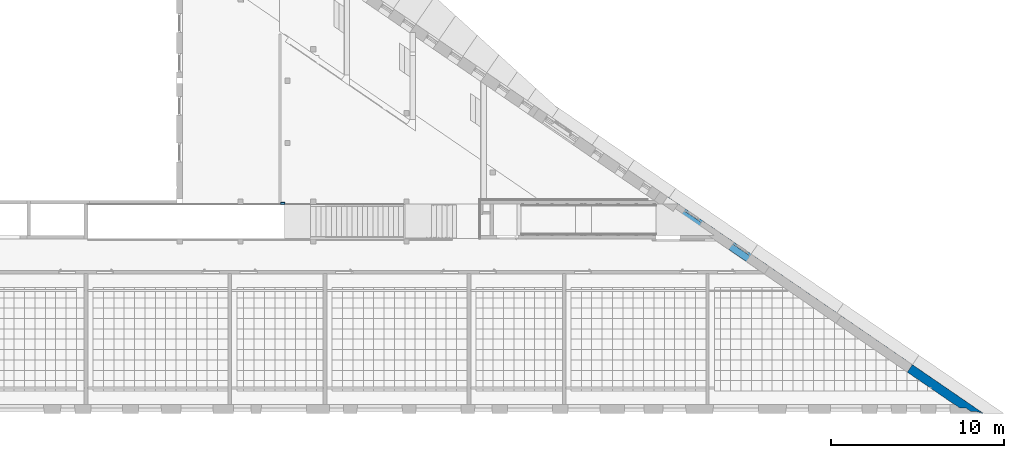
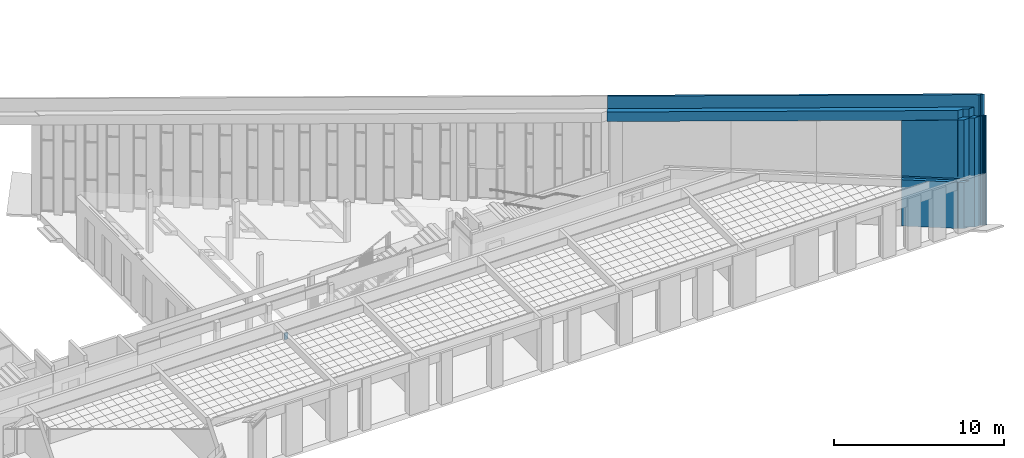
# One storey, part 46 of 79: 3 walls.
"""IFC2X3 building model written with IfcOpenShell, lengths in millimetres."""

from ifc_helpers import new_model, entity, si_unit, converted_unit, derived_unit, money_unit, direction, frame, origin_with_axes, place, context, subcontext, project, spatial, faceted_brep, material, material_list, type_object, element, save


model = new_model("IFC2X3")

# Units and contexts
model_context = context("Model", 3, precision=0.01, world=origin_with_axes(), true_north=direction((0.0, 1.0)))
body_context = subcontext(model_context, "Body", "Model", "MODEL_VIEW")
ifc_project = project(units=[si_unit("LENGTHUNIT", "METRE", prefix="MILLI"), si_unit("AREAUNIT", "SQUARE_METRE"), si_unit("VOLUMEUNIT", "CUBIC_METRE"), converted_unit("PLANEANGLEUNIT", "DEGREE", entity("IfcPlaneAngleMeasure", 0.0174532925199), si_unit("PLANEANGLEUNIT", "RADIAN"), dimensions=[0, 0, 0, 0, 0, 0, 0]), si_unit("SOLIDANGLEUNIT", "STERADIAN"), money_unit("EUR"), converted_unit("TIMEUNIT", "Year", entity("IfcTimeMeasure", 31556926.0), si_unit("TIMEUNIT", "SECOND"), dimensions=[0, 0, 1, 0, 0, 0, 0]), si_unit("MASSUNIT", "GRAM", prefix="KILO"), si_unit("THERMODYNAMICTEMPERATUREUNIT", "DEGREE_CELSIUS"), si_unit("LUMINOUSINTENSITYUNIT", "LUMEN"), si_unit("ENERGYUNIT", "JOULE", prefix="MEGA"), derived_unit("THERMALCONDUCTANCEUNIT", [(si_unit("POWERUNIT", "WATT"), 1), (si_unit("LENGTHUNIT", "METRE"), -1), (si_unit("THERMODYNAMICTEMPERATUREUNIT", "KELVIN"), -1)]), derived_unit("SPECIFICHEATCAPACITYUNIT", [(si_unit("ENERGYUNIT", "JOULE"), 1), (si_unit("MASSUNIT", "GRAM", prefix="KILO"), -1), (si_unit("THERMODYNAMICTEMPERATUREUNIT", "KELVIN"), -1)]), derived_unit("MASSDENSITYUNIT", [(si_unit("MASSUNIT", "GRAM", prefix="KILO"), 1), (si_unit("VOLUMEUNIT", "CUBIC_METRE"), -1)])], contexts=[model_context])

# Site, building, storey
site_placement = place(None, origin_with_axes())
site = spatial("IfcSite", under=ifc_project, at=site_placement, Name="L.Koidula tn 11b", CompositionType="ELEMENT")
building_placement = place(site_placement, origin_with_axes())
building = spatial("IfcBuilding", under=site, at=building_placement, Name="Rakvere Riigigümnaasium", CompositionType="ELEMENT")
storey_placement = place(building_placement, frame((0.0, 0.0, 3720.0), z_axis=(0.0, 0.0, 1.0), x_axis=(1.0, 0.0, 0.0)))
storey = spatial("IfcBuildingStorey", under=building, at=storey_placement, Name="2.korrus +3,72", CompositionType="ELEMENT", Elevation=3720.0)

# Walls
ifc_material_1 = material(Name="Krohv")
ifc_material_2 = material(Name="Betoon-element")
ifc_material_3 = material(Name="FF-PIR soojustus")
ifc_material_4 = material(Name="Tuuletõke (RKL Facade)")
ifc_material_5 = material(Name="Salto-roovitus")
ifc_material_6 = material(Name="Puit-fassaad")
ifc_material_list_1 = material_list([ifc_material_1, ifc_material_2, ifc_material_3, ifc_material_4, ifc_material_5, ifc_material_5, ifc_material_6])
wall_type_1 = type_object("IfcWallType", Name="VS-01-1 524", PredefinedType="NOTDEFINED")
wall_1_placement = place(storey_placement, frame((102894.321649, 5500.45553887, 0.0), z_axis=(0.0, 0.0, 1.0), x_axis=(-0.824666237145, 0.565619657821, 0.0)))
element("IfcWall", 1, at=wall_1_placement, inside=storey, type_object=wall_type_1, material=ifc_material_list_1, Name="Välissein", context=body_context, shape_type="Brep", body=[
    faceted_brep([(3341.90963671, 0.0, 7581.59280612), (1.41025680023e-06, 9.6726182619e-07, 7780.22422593), (6.74305056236e-07, 4.62492266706e-07, 3720.0), (3341.90963671, 0.0, 3720.0), (14.5798680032, 9.999997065, 7779.35764965), (3341.90963671, 10.0, 7581.59280611), (14.5798702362, 9.99999859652, 3720.0), (3341.90963671, 10.0, 3720.0)], [[[0, 1, 2, 3]], [[4, 1, 0, 5]], [[1, 4, 6, 2]], [[6, 7, 3, 2]], [[5, 0, 3, 7]], [[4, 5, 7, 6]]]),
    faceted_brep([(3341.90963671, 0.0, 3325.0), (6.02696559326e-07, 4.13379552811e-07, 3325.0), (0.0, 0.0, 0.0), (3341.90963671, 0.0, 0.0), (14.5798704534, 9.99999874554, 3325.0), (3341.90963671, 10.0, 3325.0), (14.5798722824, 10.0, 0.0), (3341.90963671, 10.0, 0.0)], [[[0, 1, 2, 3]], [[4, 1, 0, 5]], [[1, 4, 6, 2]], [[3, 2, 6, 7]], [[5, 0, 3, 7]], [[4, 5, 7, 6]]]),
    faceted_brep([(3341.90963671, -200.0, 7581.5928062), (-645.191949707, -200.000002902, 7818.57217891), (-645.191945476, -200.0, 0.0), (3341.90963671, -200.0, 0.0), (-353.594495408, 3.0315518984e-06, 7801.24064606), (3341.90963671, 0.0, 7581.59280612), (-353.594497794, 1.39508671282e-06, 3590.0), (-645.164728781, -199.981332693, 3590.0), (-645.164728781, -199.981332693, 3325.0), (-353.594497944, 1.2921006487e-06, 3325.0), (-353.594499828, 0.0, 0.0), (3341.90963671, 0.0, 0.0), (3341.90963671, 0.0, 3325.0), (3341.90963671, -199.982393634, 3325.0), (3341.90963671, -199.982393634, 3590.0), (3341.90963671, 0.0, 3590.0)], [[[0, 1, 2, 3]], [[4, 1, 0, 5]], [[1, 4, 6, 7, 8, 9, 10, 2]], [[10, 11, 3, 2]], [[5, 0, 3, 11, 12, 13, 14, 15]], [[4, 5, 15, 6]], [[15, 14, 7, 6]], [[14, 13, 8, 7]], [[13, 12, 9, 8]], [[11, 10, 9, 12]]]),
    faceted_brep([(3341.90963671, -380.0, 7581.59280627), (-1225.86469342, -379.999997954, 7853.08533587), (-1225.86469641, -380.0, 0.0), (3341.90963671, -380.0, 0.0), (-963.426999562, -200.000002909, 7837.48695719), (3341.90963671, -200.0, 7581.5928062), (-963.426995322, -200.0, 0.0), (3341.90963671, -200.0, 0.0)], [[[0, 1, 2, 3]], [[4, 1, 0, 5]], [[1, 4, 6, 2]], [[7, 3, 2, 6]], [[5, 0, 3, 7]], [[4, 5, 7, 6]]]),
    faceted_brep([(3341.90963671, -430.0, 7581.59280629), (-1387.16268615, -430.000002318, 7862.67232441), (-1387.16268277, -430.0, 0.0), (3341.90963671, -430.0, 0.0), (-1314.26331838, -379.999997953, 7858.33944094), (3341.90963671, -380.0, 7581.59280627), (-1314.26332136, -380.0, 0.0), (3341.90963671, -380.0, 0.0)], [[[0, 1, 2, 3]], [[4, 1, 0, 5]], [[1, 4, 6, 2]], [[7, 3, 2, 6]], [[5, 0, 3, 7]], [[4, 5, 7, 6]]]),
    faceted_brep([(3341.90963671, -462.0, 7581.5928063), (-1490.39339405, -462.0, 7868.80799663), (-1490.39339405, -462.0, 0.0), (3341.90963671, -462.0, 0.0), (-1443.73780613, -430.000002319, 7866.03495166), (3341.90963671, -430.0, 7581.59280629), (-1443.73780275, -430.0, 0.0), (3341.90963671, -430.0, 0.0)], [[[0, 1, 2, 3]], [[4, 1, 0, 5]], [[1, 4, 6, 2]], [[7, 3, 2, 6]], [[5, 0, 3, 7]], [[4, 5, 7, 6]]]),
    faceted_brep([(3341.90963671, -494.0, 7581.59280631), (-1593.62410613, -494.000000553, 7874.9436691), (-1593.62410533, -494.0, 0.0), (3341.90963671, -494.0, 0.0), (-1546.96851402, -462.0, 7872.17062388), (3341.90963671, -462.0, 7581.5928063), (-1546.96851402, -462.0, 0.0), (3341.90963671, -462.0, 0.0)], [[[0, 1, 2, 3]], [[4, 1, 0, 5]], [[1, 4, 6, 2]], [[7, 3, 2, 6]], [[5, 0, 3, 7]], [[4, 5, 7, 6]]]),
    faceted_brep([(3341.90963671, -514.0, 7581.59280632), (-1658.14329987, -514.0, 7878.77846432), (-1658.14329987, -514.0, 0.0), (3341.90963671, -514.0, 0.0), (-1628.98355531, -494.000000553, 7877.04531108), (3341.90963671, -494.0, 7581.59280631), (-1628.98355531, -494.0, 0.0), (3341.90963671, -494.0, 0.0)], [[[0, 1, 2, 3]], [[4, 1, 0, 5]], [[1, 4, 6, 2]], [[7, 3, 2, 6]], [[5, 0, 3, 7]], [[4, 5, 7, 6]]]),
])
ifc_material_7 = material(Name="Polükarbamiid")
ifc_material_8 = material(Name="Kipsplaat-erikõva")
ifc_material_9 = material(Name="Karkass")
ifc_material_list_2 = material_list([ifc_material_7, ifc_material_8, ifc_material_8, ifc_material_9])
wall_type_2 = type_object("IfcWallType", Name="SS-09-1 97", PredefinedType="NOTDEFINED")
wall_2_placement = place(storey_placement, frame((64089.9862213, 17140.9784813, -1395.0), z_axis=(0.0, 0.0, 1.0), x_axis=(-0.999999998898, -4.6938360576e-05, 0.0)))
element("IfcWall", 2, at=wall_2_placement, inside=storey, type_object=wall_type_2, material=ifc_material_list_2, Name="Sisesein", context=body_context, shape_type="Brep", body=[
    faceted_brep([(213.9667222, 30.5, 465.0), (0.0, 30.5, 465.0), (0.0, 25.5, 465.0), (213.966487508, 25.5, 465.0), (213.9667222, 30.5, 0.0), (0.0, 30.5, 0.0), (0.0, 25.5, 0.0), (213.966487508, 25.5, 0.0)], [[[0, 1, 2, 3]], [[4, 5, 1, 0]], [[2, 1, 5, 6]], [[3, 2, 6, 7]], [[3, 7, 4, 0]], [[7, 6, 5, 4]]]),
    faceted_brep([(213.966487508, 25.5, 465.0), (0.0, 25.5, 465.0), (0.0, 12.5, 465.0), (213.96587731, 12.5, 465.0), (213.966487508, 25.5, 0.0), (0.0, 25.5, 0.0), (0.0, 12.5, 0.0), (213.96587731, 12.5, 0.0)], [[[0, 1, 2, 3]], [[4, 5, 1, 0]], [[2, 1, 5, 6]], [[3, 2, 6, 7]], [[3, 7, 4, 0]], [[7, 6, 5, 4]]]),
    faceted_brep([(213.96587731, 12.5, 465.0), (0.0, 12.5, 465.0), (0.0, 0.0, 465.0), (213.96529058, 0.0, 465.0), (213.96587731, 12.5, 0.0), (0.0, 12.5, 0.0), (0.0, 0.0, 0.0), (213.96529058, 0.0, 0.0)], [[[0, 1, 2, 3]], [[4, 5, 1, 0]], [[2, 1, 5, 6]], [[3, 2, 6, 7]], [[3, 7, 4, 0]], [[7, 6, 5, 4]]]),
    faceted_brep([(213.96529058, 0.0, 465.0), (0.0, 0.0, 465.0), (0.0, -66.0, 465.0), (213.962192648, -66.0, 465.0), (213.96529058, 0.0, 0.0), (0.0, 0.0, 0.0), (0.0, -66.0, 0.0), (213.962192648, -66.0, 0.0)], [[[0, 1, 2, 3]], [[4, 5, 1, 0]], [[2, 1, 5, 6]], [[3, 2, 6, 7]], [[3, 7, 4, 0]], [[7, 6, 5, 4]]]),
])
ifc_material_10 = material(Name="Roovid-puit")
ifc_material_list_3 = material_list([ifc_material_2, ifc_material_3, ifc_material_4, ifc_material_10, ifc_material_10, ifc_material_10])
wall_type_3 = type_object("IfcWallType", Name="VS-09-1 526", PredefinedType="NOTDEFINED")
wall_3_placement = place(storey_placement, frame((102894.316835, 5500.45553887, 1516.14375942), z_axis=(0.0, 0.0, 1.0), x_axis=(-0.824666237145, 0.565619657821, 0.0)))
element("IfcWall", 3, at=wall_3_placement, inside=storey, type_object=wall_type_3, material=ifc_material_list_3, Name="Välissein", context=body_context, shape_type="Brep", body=[
    faceted_brep([(0.0, -200.000016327, 6363.85624058), (0.0, -200.000016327, 6264.08023076), (20711.233429, -200.0, 5033.07695687), (20711.233429, -200.0, 5701.19244396), (-291.597460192, -200.000009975, 6949.52726213), (-291.597469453, -200.000016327, 6363.85624058), (-6.0927618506e-07, -4.38689085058e-07, 6264.08023071), (-6.1898219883e-07, -4.24542179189e-07, 6363.85624058), (20711.233429, 0.0, 5033.07695679), (20711.233429, 0.0, 5718.52934379), (-3.77298192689e-07, -2.58772558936e-07, 6949.53262953)], [[[0, 1, 2, 3, 4, 5]], [[6, 1, 0, 7]], [[2, 1, 6, 8]], [[3, 2, 8, 9]], [[4, 3, 9, 10]], [[10, 7, 5, 4]], [[7, 0, 5]], [[8, 6, 7, 10, 9]]]),
    faceted_brep([(0.0, -380.000039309, 6363.85624058), (0.0, -380.000039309, 6264.08023083), (20711.233429, -380.0, 5033.07695694), (20711.233429, -380.0, 5685.58923411), (-907.629682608, -380.000024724, 6970.53885197), (-907.629703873, -380.000039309, 6363.85624058), (0.0, -200.000016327, 6264.08023076), (0.0, -200.000016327, 6363.85624058), (20711.233429, -200.0, 5033.07695687), (20711.233429, -200.0, 5701.19244396), (-645.191959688, -200.000009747, 6970.54368264), (-645.191969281, -200.000016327, 6363.85624058)], [[[0, 1, 2, 3, 4, 5]], [[6, 1, 0, 7]], [[2, 1, 6, 8]], [[3, 2, 8, 9]], [[4, 3, 9, 10]], [[10, 11, 5, 4]], [[0, 5, 11, 7]], [[6, 7, 11, 10, 9, 8]]]),
    faceted_brep([(20711.233429, -430.0, 6579.52328132), (-989.223619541, -429.999999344, 7863.85624058), (-1298.76405686, -429.999999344, 7863.85624058), (-1298.76408603, -430.000019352, 6363.85624058), (0.0, -430.000019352, 6363.85624058), (0.0, -430.000019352, 6264.08023085), (20711.233429, -430.0, 5033.07695696), (-937.835712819, -394.754212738, 7863.85624058), (20711.233429, -394.754069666, 6582.56466663), (-1247.34720722, -394.754214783, 7863.85624058), (-1225.83575524, -380.000003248, 7863.85624058), (-1225.86470114, -380.000003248, 7863.85624058), (-1225.86475372, -380.000039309, 6363.85624058), (0.0, -380.000039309, 6363.85624058), (0.0, -380.000039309, 6264.08023083), (20711.233429, -380.0, 5033.07695694), (20711.233429, -380.0, 5685.58923411), (20711.233429, -394.754069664, 5684.31028497), (-1247.3472072, -394.754214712, 6989.45151404), (-1225.83575059, -380.0, 6989.45191)], [[[0, 1, 2, 3, 4, 5, 6]], [[7, 1, 0, 8]], [[1, 7, 9, 10, 11, 2]], [[12, 3, 2, 11]], [[4, 3, 12, 13]], [[14, 5, 4, 13]], [[6, 5, 14, 15]], [[8, 0, 6, 15, 16, 17]], [[7, 8, 17, 18, 9]], [[18, 19, 10, 9]], [[12, 11, 10, 19, 16, 15, 14, 13]], [[19, 18, 17, 16]]]),
    faceted_brep([(20711.233429, -462.0, 6576.76198862), (-1035.8792118, -462.0, 7863.85624058), (-1433.81827408, -462.0, 7863.85624058), (-1433.81827408, -462.0, 6363.85624058), (0.0, -462.0, 6363.85624058), (0.0, -462.0, 6264.08023086), (20711.233429, -462.0, 5033.07695698), (-989.223619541, -429.999999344, 7863.85624058), (20711.233429, -430.0, 6579.52328132), (-1387.16268182, -429.999999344, 7863.85624058), (-1387.16271099, -430.000019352, 6363.85624058), (0.0, -430.000019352, 6363.85624058), (0.0, -430.000019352, 6264.08023085), (20711.233429, -430.0, 5033.07695696)], [[[0, 1, 2, 3, 4, 5, 6]], [[7, 1, 0, 8]], [[1, 7, 9, 2]], [[10, 3, 2, 9]], [[4, 3, 10, 11]], [[12, 5, 4, 11]], [[6, 5, 12, 13]], [[8, 0, 6, 13]], [[7, 8, 13, 12, 11, 10, 9]]]),
    faceted_brep([(20711.233429, -494.0, 6574.00069592), (-1082.5348031, -494.0, 7863.85624058), (-1480.47386538, -494.0, 7863.85624058), (-1480.47386538, -494.0, 6363.85624058), (0.0, -494.0, 6363.85624058), (0.0, -494.0, 6264.08023087), (20711.233429, -494.0, 5033.07695699), (-1035.8792118, -462.0, 7863.85624058), (20711.233429, -462.0, 6576.76198862), (-1433.81827408, -462.0, 7863.85624058), (-1433.81827408, -462.0, 6363.85624058), (0.0, -462.0, 6363.85624058), (0.0, -462.0, 6264.08023086), (20711.233429, -462.0, 5033.07695698)], [[[0, 1, 2, 3, 4, 5, 6]], [[7, 1, 0, 8]], [[1, 7, 9, 2]], [[10, 3, 2, 9]], [[4, 3, 10, 11]], [[12, 5, 4, 11]], [[6, 5, 12, 13]], [[8, 0, 6, 13]], [[7, 8, 13, 12, 11, 10, 9]]]),
    faceted_brep([(20711.233429, -526.0, 6571.23940322), (-1129.19039441, -526.0, 7863.85624058), (-1527.12945669, -526.0, 7863.85624058), (-1527.12945669, -526.0, 6363.85624058), (0.0, -526.0, 6363.85624058), (0.0, -526.0, 6264.08023089), (20711.233429, -526.0, 5033.076957), (-1082.5348031, -494.0, 7863.85624058), (20711.233429, -494.0, 6574.00069592), (-1480.47386538, -494.0, 7863.85624058), (-1480.47386538, -494.0, 6363.85624058), (0.0, -494.0, 6363.85624058), (0.0, -494.0, 6264.08023087), (20711.233429, -494.0, 5033.07695699)], [[[0, 1, 2, 3, 4, 5, 6]], [[7, 1, 0, 8]], [[1, 7, 9, 2]], [[10, 3, 2, 9]], [[4, 3, 10, 11]], [[12, 5, 4, 11]], [[6, 5, 12, 13]], [[8, 0, 6, 13]], [[7, 8, 13, 12, 11, 10, 9]]]),
])

save(model, "model.ifc")
